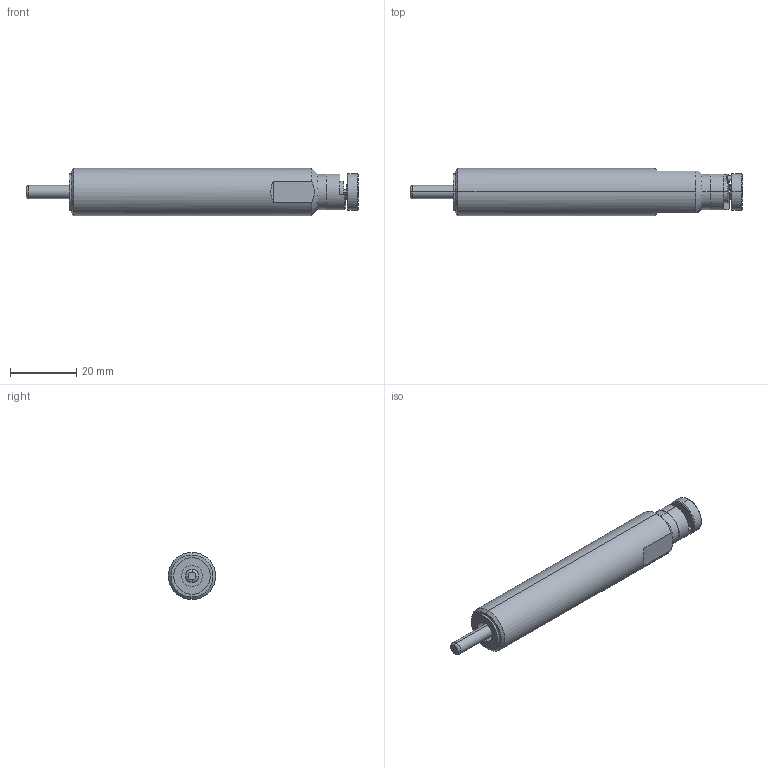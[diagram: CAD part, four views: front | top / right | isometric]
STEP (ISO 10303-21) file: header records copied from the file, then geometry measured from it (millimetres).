
FILE_DESCRIPTION (( 'STEP AP214' ), '1' );
FILE_NAME ('ECO OEM .35_FP24055.STEP', '2016-09-30T19:29:06', ( '' ), ( '' ), 'SwSTEP 2.0', 'SolidWorks 2011', '' );
FILE_SCHEMA (( 'AUTOMOTIVE_DESIGN' ));
Length unit declared in the file: inch
Products named in the file (1): ECO OEM .35_FP24055
Bounding box: 100.54 x 14.25 x 14.25 mm (x, y, z)
Surface area: 4958.7 mm2 (no closed solid volume)
Topology: 0 solids, 9 shells, 73 faces, 181 edges, 118 vertices
Faces by surface type: plane 30, cylinder 22, cone 17, torus 4
Entity records: 3232 total; most frequent: CARTESIAN_POINT 483, DIRECTION 402, ORIENTED_EDGE 322, EDGE_CURVE 181, AXIS2_PLACEMENT_3D 157, VERTEX_POINT 118, LINE 88, VECTOR 88
